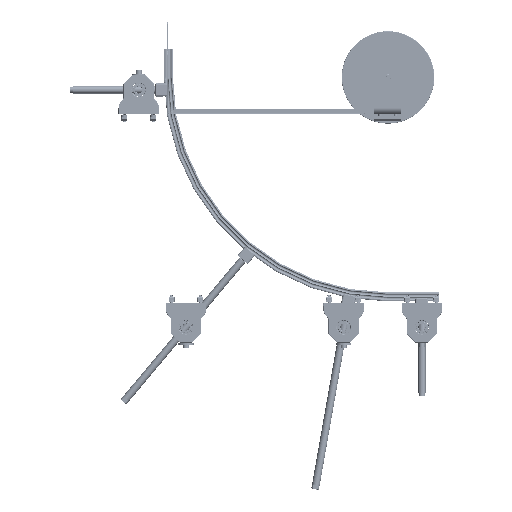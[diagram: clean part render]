
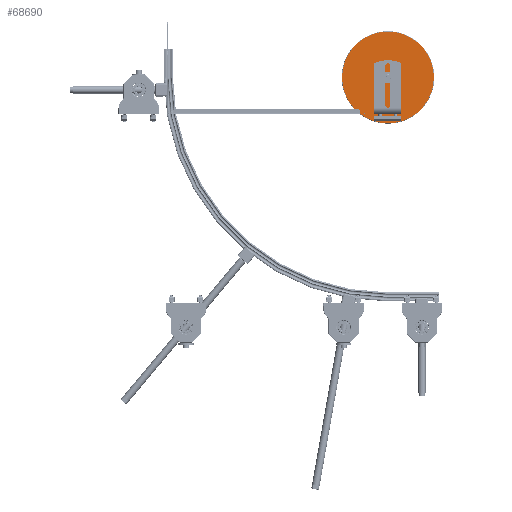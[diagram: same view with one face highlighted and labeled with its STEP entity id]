
A CAD part, front view. The second image highlights one B-rep face of the part: STEP entity #68690.
In plain terms, the highlighted planar face has unit normal (0, -1, 0) as drawn and (0, 1, 0) by its records, which use the part's own axes.
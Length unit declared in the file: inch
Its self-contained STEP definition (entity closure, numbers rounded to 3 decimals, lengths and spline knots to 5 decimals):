
#68503=CARTESIAN_POINT('',(0.,0.405,0.));
#68504=DIRECTION('',(0.,1.,0.));
#68505=DIRECTION('',(0.,0.,1.));
#68506=AXIS2_PLACEMENT_3D('',#68503,#68504,#68505);
#68508=CARTESIAN_POINT('',(0.,0.405,0.));
#68509=DIRECTION('',(0.,1.,0.));
#68510=DIRECTION('',(0.,0.,-1.));
#68511=AXIS2_PLACEMENT_3D('',#68508,#68509,#68510);
#68513=CARTESIAN_POINT('',(0.,0.405,0.));
#68514=DIRECTION('',(0.,-1.,0.));
#68515=DIRECTION('',(0.,0.,-1.));
#68516=AXIS2_PLACEMENT_3D('',#68513,#68514,#68515);
#68518=CARTESIAN_POINT('',(0.,0.405,0.));
#68519=DIRECTION('',(0.,-1.,0.));
#68520=DIRECTION('',(0.,0.,1.));
#68521=AXIS2_PLACEMENT_3D('',#68518,#68519,#68520);
#68527=CARTESIAN_POINT('',(0.,0.405,-0.2525));
#68528=VERTEX_POINT('',#68527);
#68529=CARTESIAN_POINT('',(0.,0.405,0.2525));
#68530=VERTEX_POINT('',#68529);
#68531=CARTESIAN_POINT('',(0.,0.405,-2.97));
#68532=CARTESIAN_POINT('',(0.,0.405,2.97));
#68533=VERTEX_POINT('',#68531);
#68534=VERTEX_POINT('',#68532);
#68677=CARTESIAN_POINT('',(0.,0.405,0.));
#68678=DIRECTION('',(0.,1.,0.));
#68679=DIRECTION('',(0.,0.,1.));
#68680=AXIS2_PLACEMENT_3D('',#68677,#68678,#68679);
#68681=PLANE('',#68680);
#68682=ORIENTED_EDGE('',*,*,#68571,.F.);
#68683=ORIENTED_EDGE('',*,*,#68554,.F.);
#68684=EDGE_LOOP('',(#68682,#68683));
#68685=FACE_OUTER_BOUND('',#68684,.F.);
#68686=ORIENTED_EDGE('',*,*,#68670,.F.);
#68687=ORIENTED_EDGE('',*,*,#68657,.F.);
#68688=EDGE_LOOP('',(#68686,#68687));
#68689=FACE_BOUND('',#68688,.F.);
#68507=CIRCLE('',#68506,2.97);
#68512=CIRCLE('',#68511,2.97);
#68517=CIRCLE('',#68516,0.2525);
#68522=CIRCLE('',#68521,0.2525);
#68554=EDGE_CURVE('',#68533,#68534,#68512,.T.);
#68571=EDGE_CURVE('',#68534,#68533,#68507,.T.);
#68657=EDGE_CURVE('',#68530,#68528,#68522,.T.);
#68670=EDGE_CURVE('',#68528,#68530,#68517,.T.);
#68690=ADVANCED_FACE('',(#68685,#68689),#68681,.T.);
